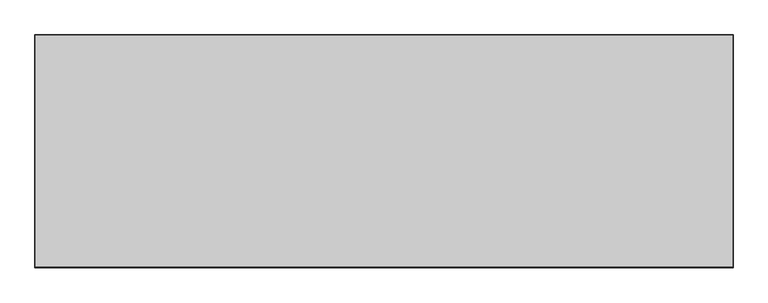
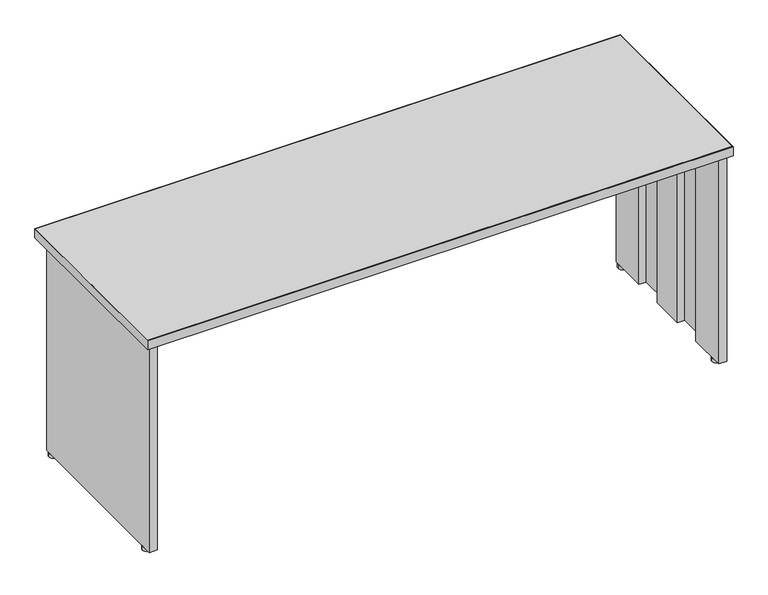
"""IFC4 building model written with IfcOpenShell, lengths in millimetres: furniture geometry, Steelcase - Kick Freestanding - Desk Shell - Partial Height Modesty Panel : 24D x 72W."""

from ifc_helpers import new_model, si_unit, point, frame, frame_2d, origin, origin_with_axes, place, context, project, spatial, polyline, circle_curve, trimmed, segment, composite_curve, outline, extrude, source, transform, mapped, element, save


def furniture_de3aac1a(model_context):
    return source(origin(), model_context, "Body", "SweptSolid", [
        extrude(outline(polyline([(677.0450425, -999.9647597), (677.0450425, -974.5647604), (2431.4738425, -974.5647604), (2431.4738425, -999.9647597), (677.0450425, -999.9647597)])), frame((0.0, 0.0, 390.144), z_axis=(0.0, 0.0, 1.0), x_axis=(1.0, 0.0, 0.0)), (0.0, 0.0, 1.0), 304.8),
        extrude(outline(composite_curve([segment(trimmed(circle_curve(frame_2d((665.1357759, -986.9367877)), 13.97), [point((651.1657759, -986.9367877))], [point((679.1057759, -986.9367877))], False, "CARTESIAN"), True, "CONTINUOUS"), segment(trimmed(circle_curve(frame_2d((665.1357759, -986.9367877)), 13.97), [point((679.1057759, -986.9367877))], [point((651.1657759, -986.9367877))], False, "CARTESIAN"), True, "CONTINUOUS")], self_intersect=False)), origin_with_axes(), (0.0, 0.0, 1.0), 12.446),
        extrude(outline(composite_curve([segment(trimmed(circle_curve(frame_2d((665.1357759, -1493.6441481)), 13.97), [point((651.1657759, -1493.6441481))], [point((679.1057759, -1493.6441481))], False, "CARTESIAN"), True, "CONTINUOUS"), segment(trimmed(circle_curve(frame_2d((665.1357759, -1493.6441481)), 13.97), [point((679.1057759, -1493.6441481))], [point((651.1657759, -1493.6441481))], False, "CARTESIAN"), True, "CONTINUOUS")], self_intersect=False)), origin_with_axes(), (0.0, 0.0, 1.0), 12.446),
        extrude(outline(polyline([(2431.4738425, -1096.0529604), (2431.4738425, -972.7867604), (2455.9594421, -972.7867604), (2455.9594421, -1528.538741), (2431.4738421, -1528.538741), (2431.4738421, -1404.2311348), (2453.9020425, -1404.2311348), (2453.9020425, -1304.5107682), (2431.4738421, -1304.5107682), (2431.4738421, -1195.7733647), (2453.9020425, -1195.7733647), (2453.9020425, -1096.0529604), (2431.4738425, -1096.0529604)])), frame((0.0, 0.0, 12.446), z_axis=(0.0, 0.0, 1.0), x_axis=(1.0, 0.0, 0.0)), (0.0, 0.0, 1.0), 682.498),
        extrude(outline(polyline([(677.0450425, -1096.0529604), (654.6168425, -1096.0529604), (654.6168425, -1195.7733647), (677.0450429, -1195.7733647), (677.0450429, -1304.5107682), (654.6168425, -1304.5107682), (654.6168425, -1404.2311348), (677.0450429, -1404.2311348), (677.0450429, -1528.538741), (652.5594429, -1528.538741), (652.5594429, -972.7867604), (677.0450425, -972.7867604), (677.0450425, -1096.0529604)])), frame((0.0, 0.0, 12.446), z_axis=(0.0, 0.0, 1.0), x_axis=(1.0, 0.0, 0.0)), (0.0, 0.0, 1.0), 682.498),
        extrude(outline(polyline([(2467.6688425, -932.6293604), (2467.6688425, -1538.2669215), (640.8500425, -1538.2669215), (640.8500425, -932.6293604), (2467.6688425, -932.6293604)])), frame((0.0, 0.0, 694.944), z_axis=(0.0, 0.0, 1.0), x_axis=(1.0, 0.0, 0.0)), (0.0, 0.0, 1.0), 28.956),
        extrude(outline(polyline([(2468.6594425, -931.6387604), (2468.6594425, -1541.2387604), (639.8594425, -1541.2387604), (639.8594425, -931.6387604), (2468.6594425, -931.6387604)]), holes=[polyline([(2467.6688425, -932.6293604), (640.8500425, -932.6293604), (640.8500425, -1538.2669215), (2467.6688425, -1538.2669215), (2467.6688425, -932.6293604)])]), frame((0.0, 0.0, 694.944), z_axis=(0.0, 0.0, 1.0), x_axis=(1.0, 0.0, 0.0)), (0.0, 0.0, 1.0), 28.956),
        extrude(outline(composite_curve([segment(trimmed(circle_curve(frame_2d((2443.3831091, -1493.6441481)), 13.97), [point((2429.4131091, -1493.6441481))], [point((2457.3531091, -1493.6441481))], False, "CARTESIAN"), True, "CONTINUOUS"), segment(trimmed(circle_curve(frame_2d((2443.3831091, -1493.6441481)), 13.97), [point((2457.3531091, -1493.6441481))], [point((2429.4131091, -1493.6441481))], False, "CARTESIAN"), True, "CONTINUOUS")], self_intersect=False)), origin_with_axes(), (0.0, 0.0, 1.0), 12.446),
        extrude(outline(composite_curve([segment(trimmed(circle_curve(frame_2d((2443.3831091, -986.9367877)), 13.97), [point((2457.3531091, -986.9367877))], [point((2429.4131091, -986.9367877))], False, "CARTESIAN"), True, "CONTINUOUS"), segment(trimmed(circle_curve(frame_2d((2443.3831091, -986.9367877)), 13.97), [point((2429.4131091, -986.9367877))], [point((2457.3531091, -986.9367877))], False, "CARTESIAN"), True, "CONTINUOUS")], self_intersect=False)), origin_with_axes(), (0.0, 0.0, 1.0), 12.446),
    ])


if __name__ == "__main__":
    model = new_model("IFC4")
    model_context = context("Model", 3, world=origin())
    ifc_project = project(units=[si_unit("LENGTHUNIT", "METRE", prefix="MILLI")], contexts=[model_context])
    site = spatial("IfcSite", under=ifc_project)
    building = spatial("IfcBuilding", under=site)
    placement = place(None, origin())
    furniture_shape = furniture_de3aac1a(model_context)
    element("IfcFurniture", 1, ObjectType="Steelcase - Kick Freestanding - Desk Shell - Partial Height Modesty Panel : 24D x 72W", at=placement, inside=building, context=model_context, shape_type="MappedRepresentation", body=[
        mapped(furniture_shape, transform((0.0, 0.0, 0.0), x_axis=(1.0, 0.0, 0.0), y_axis=(0.0, 1.0, 0.0), z_axis=(0.0, 0.0, 1.0))),
    ])
    save(model, "model.ifc")
